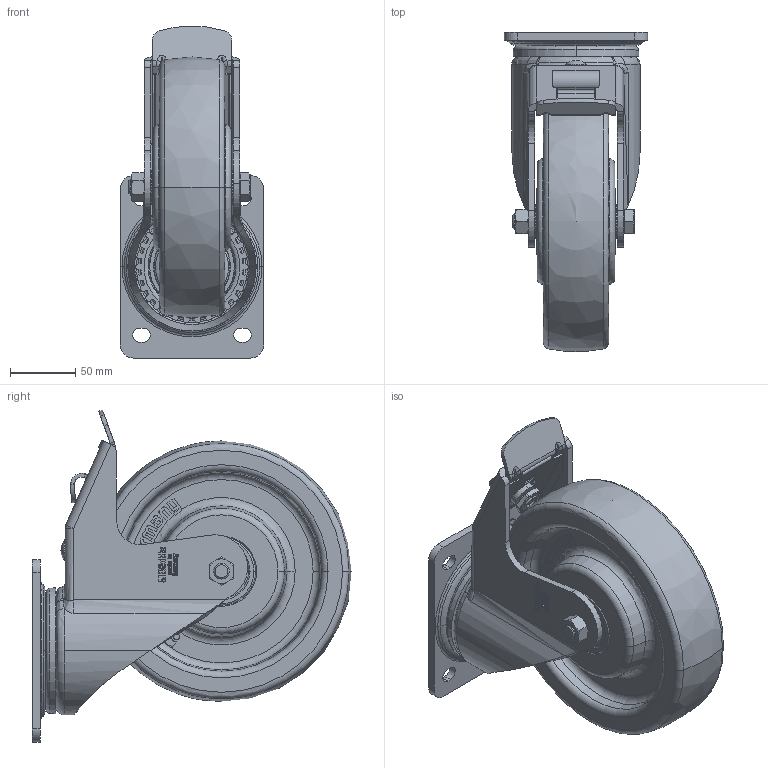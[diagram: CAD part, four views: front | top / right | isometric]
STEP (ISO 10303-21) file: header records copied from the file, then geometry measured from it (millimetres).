
FILE_DESCRIPTION (( 'STEP AP214' ), '1' );
FILE_NAME ('LH-SPO_200K-FI_481424-214.step', '2022-01-05T09:53:15', ( '' ), ( '' ), 'SwSTEP 2.0', 'SolidWorks 2018', '' );
FILE_SCHEMA (( 'AUTOMOTIVE_DESIGN' ));
Length unit declared in the file: millimetre
Products named in the file (5): LH-SPO_200K-FI_481424-214; SPO_200_20K_G16_3D; GH-LH_175-250_GH-LH-200x60-03-FI_20x60; GH-LH-200x60-03-FI_20x60_G16_3D; SPO_3D_G16_SPO_200_20K_006023
Assembly tree (4 placements, depth 3):
  LH-SPO_200K-FI_481424-214
    SPO_3D_G16_SPO_200_20K_006023
      SPO_200_20K_G16_3D
    GH-LH_175-250_GH-LH-200x60-03-FI_20x60
      GH-LH-200x60-03-FI_20x60_G16_3D
Bounding box: 110 x 244.75 x 254.72 mm (x, y, z)
Volume: 1692253.9 mm3; surface area: 289687.7 mm2
Topology: 2 solids, 8 shells, 3083 faces, 8331 edges, 5435 vertices
Faces by surface type: plane 1245, bspline 980, cylinder 551, torus 176, cone 121, sphere 10
Entity records: 127395 total; most frequent: CARTESIAN_POINT 52797, ORIENTED_EDGE 16632, DIRECTION 11339, EDGE_CURVE 8316, VERTEX_POINT 5432, VECTOR 4481, LINE 4481, AXIS2_PLACEMENT_3D 3429
